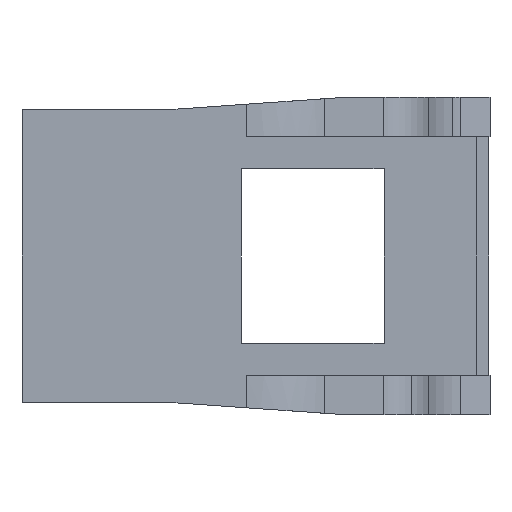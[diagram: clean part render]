
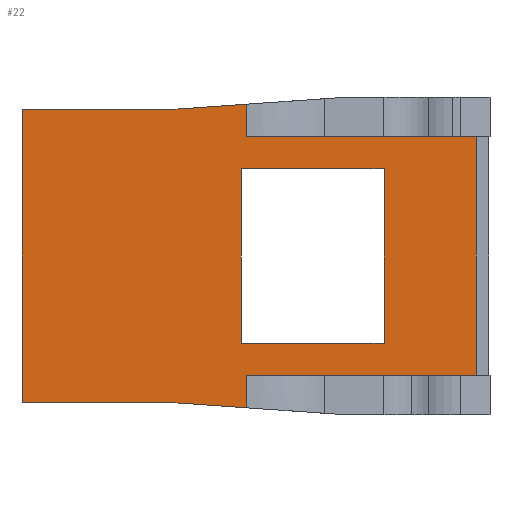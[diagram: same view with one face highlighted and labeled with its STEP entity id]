
A CAD part, left-side view. The second image highlights one B-rep face of the part: STEP entity #22.
In plain terms, the highlighted planar face has unit normal (-1, 0, 0).
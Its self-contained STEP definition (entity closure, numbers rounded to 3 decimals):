
#22 = ADVANCED_FACE ( 'NONE', ( #414, #521 ), #1425, .F. ) ;
#85 = ORIENTED_EDGE ( 'NONE', *, *, #951, .F. ) ;
#100 = ORIENTED_EDGE ( 'NONE', *, *, #895, .T. ) ;
#101 = ORIENTED_EDGE ( 'NONE', *, *, #1040, .T. ) ;
#102 = ORIENTED_EDGE ( 'NONE', *, *, #923, .F. ) ;
#103 = ORIENTED_EDGE ( 'NONE', *, *, #968, .F. ) ;
#130 = ORIENTED_EDGE ( 'NONE', *, *, #842, .T. ) ;
#157 = ORIENTED_EDGE ( 'NONE', *, *, #975, .F. ) ;
#162 = ORIENTED_EDGE ( 'NONE', *, *, #875, .T. ) ;
#165 = ORIENTED_EDGE ( 'NONE', *, *, #1021, .T. ) ;
#178 = ORIENTED_EDGE ( 'NONE', *, *, #988, .T. ) ;
#179 = ORIENTED_EDGE ( 'NONE', *, *, #905, .T. ) ;
#180 = ORIENTED_EDGE ( 'NONE', *, *, #883, .T. ) ;
#225 = LINE ( 'NONE', #1587, #268 ) ;
#229 = ORIENTED_EDGE ( 'NONE', *, *, #870, .F. ) ;
#234 = ORIENTED_EDGE ( 'NONE', *, *, #1000, .F. ) ;
#250 = VECTOR ( 'NONE', #1517, 1000. ) ;
#268 = VECTOR ( 'NONE', #1585, 1000. ) ;
#282 = VECTOR ( 'NONE', #1588, 1000. ) ;
#330 = LINE ( 'NONE', #1520, #347 ) ;
#336 = LINE ( 'NONE', #1449, #337 ) ;
#337 = VECTOR ( 'NONE', #1452, 1000. ) ;
#344 = EDGE_LOOP ( 'NONE', ( #178, #85, #157, #100, #179, #102, #162, #234, #103, #229 ) ) ;
#347 = VECTOR ( 'NONE', #1475, 1000. ) ;
#350 = LINE ( 'NONE', #1498, #396 ) ;
#356 = EDGE_LOOP ( 'NONE', ( #180, #101, #130, #165 ) ) ;
#376 = LINE ( 'NONE', #1227, #250 ) ;
#392 = VECTOR ( 'NONE', #816, 1000. ) ;
#396 = VECTOR ( 'NONE', #1487, 1000. ) ;
#406 = VECTOR ( 'NONE', #1092, 1000. ) ;
#414 = FACE_OUTER_BOUND ( 'NONE', #344, .T. ) ;
#419 = LINE ( 'NONE', #815, #392 ) ;
#500 = LINE ( 'NONE', #1302, #282 ) ;
#505 = VECTOR ( 'NONE', #1086, 1000. ) ;
#521 = FACE_BOUND ( 'NONE', #356, .T. ) ;
#538 = LINE ( 'NONE', #1197, #549 ) ;
#549 = VECTOR ( 'NONE', #1117, 1000. ) ;
#563 = VECTOR ( 'NONE', #1413, 1000. ) ;
#564 = LINE ( 'NONE', #1340, #563 ) ;
#572 = VECTOR ( 'NONE', #1427, 1000. ) ;
#575 = LINE ( 'NONE', #1273, #628 ) ;
#582 = LINE ( 'NONE', #1110, #505 ) ;
#589 = VECTOR ( 'NONE', #1199, 1000. ) ;
#598 = LINE ( 'NONE', #1134, #406 ) ;
#601 = LINE ( 'NONE', #1090, #589 ) ;
#628 = VECTOR ( 'NONE', #1261, 1000. ) ;
#643 = LINE ( 'NONE', #1428, #572 ) ;
#701 = CARTESIAN_POINT ( 'NONE',  ( 1.6, 10.2, 4.6 ) ) ;
#702 = CARTESIAN_POINT ( 'NONE',  ( 1.6, 7.632, 3.75 ) ) ;
#707 = CARTESIAN_POINT ( 'NONE',  ( 1.6, 14.7, 4.6 ) ) ;
#727 = CARTESIAN_POINT ( 'NONE',  ( 1.6, 3.3, -2.75 ) ) ;
#728 = CARTESIAN_POINT ( 'NONE',  ( 1.6, 7.8, -2.75 ) ) ;
#733 = CARTESIAN_POINT ( 'NONE',  ( 1.6, 3.3, 2.75 ) ) ;
#738 = CARTESIAN_POINT ( 'NONE',  ( 1.6, 0.4, -3.75 ) ) ;
#740 = CARTESIAN_POINT ( 'NONE',  ( 1.6, 7.632, -4.78 ) ) ;
#758 = CARTESIAN_POINT ( 'NONE',  ( 1.6, 7.8, 2.75 ) ) ;
#773 = CARTESIAN_POINT ( 'NONE',  ( 1.6, 10.2, -4.6 ) ) ;
#797 = CARTESIAN_POINT ( 'NONE',  ( 1.6, 7.632, -3.75 ) ) ;
#798 = CARTESIAN_POINT ( 'NONE',  ( 1.6, 14.7, -4.6 ) ) ;
#804 = CARTESIAN_POINT ( 'NONE',  ( 1.6, 7.632, 4.78 ) ) ;
#815 = CARTESIAN_POINT ( 'NONE',  ( 1.6, 0.4, -2.75 ) ) ;
#816 = DIRECTION ( 'NONE',  ( 0., 1., 0. ) ) ;
#818 = CARTESIAN_POINT ( 'NONE',  ( 1.6, 0.4, 3.75 ) ) ;
#842 = EDGE_CURVE ( 'NONE', #1551, #1355, #601, .T. ) ;
#870 = EDGE_CURVE ( 'NONE', #1200, #1293, #500, .T. ) ;
#875 = EDGE_CURVE ( 'NONE', #1603, #1297, #564, .T. ) ;
#883 = EDGE_CURVE ( 'NONE', #1478, #1539, #538, .T. ) ;
#885 = AXIS2_PLACEMENT_3D ( 'NONE', #1368, #1093, #1503 ) ;
#895 = EDGE_CURVE ( 'NONE', #1433, #1152, #582, .T. ) ;
#905 = EDGE_CURVE ( 'NONE', #1152, #1431, #575, .T. ) ;
#923 = EDGE_CURVE ( 'NONE', #1603, #1431, #643, .T. ) ;
#951 = EDGE_CURVE ( 'NONE', #1562, #1190, #598, .T. ) ;
#968 = EDGE_CURVE ( 'NONE', #1293, #1115, #336, .T. ) ;
#975 = EDGE_CURVE ( 'NONE', #1433, #1562, #330, .T. ) ;
#988 = EDGE_CURVE ( 'NONE', #1200, #1190, #376, .T. ) ;
#1000 = EDGE_CURVE ( 'NONE', #1115, #1297, #350, .T. ) ;
#1021 = EDGE_CURVE ( 'NONE', #1355, #1478, #225, .T. ) ;
#1040 = EDGE_CURVE ( 'NONE', #1539, #1551, #419, .T. ) ;
#1086 = DIRECTION ( 'NONE',  ( 0., 0., 1. ) ) ;
#1090 = CARTESIAN_POINT ( 'NONE',  ( 1.6, 7.8, 5. ) ) ;
#1092 = DIRECTION ( 'NONE',  ( 0., 1., 0. ) ) ;
#1093 = DIRECTION ( 'NONE',  ( 1., 0., 0. ) ) ;
#1110 = CARTESIAN_POINT ( 'NONE',  ( 1.6, 7.632, -5. ) ) ;
#1115 = VERTEX_POINT ( 'NONE', #804 ) ;
#1117 = DIRECTION ( 'NONE',  ( 0., 0., -1. ) ) ;
#1134 = CARTESIAN_POINT ( 'NONE',  ( 1.6, 14.7, -4.6 ) ) ;
#1152 = VERTEX_POINT ( 'NONE', #797 ) ;
#1190 = VERTEX_POINT ( 'NONE', #798 ) ;
#1197 = CARTESIAN_POINT ( 'NONE',  ( 1.6, 3.3, 5. ) ) ;
#1199 = DIRECTION ( 'NONE',  ( 0., 0., 1. ) ) ;
#1200 = VERTEX_POINT ( 'NONE', #707 ) ;
#1227 = CARTESIAN_POINT ( 'NONE',  ( 1.6, 14.7, 5. ) ) ;
#1261 = DIRECTION ( 'NONE',  ( 0., -1., 0. ) ) ;
#1273 = CARTESIAN_POINT ( 'NONE',  ( 1.6, 0.4, -3.75 ) ) ;
#1293 = VERTEX_POINT ( 'NONE', #701 ) ;
#1297 = VERTEX_POINT ( 'NONE', #702 ) ;
#1302 = CARTESIAN_POINT ( 'NONE',  ( 1.6, 14.7, 4.6 ) ) ;
#1340 = CARTESIAN_POINT ( 'NONE',  ( 1.6, 0.4, 3.75 ) ) ;
#1355 = VERTEX_POINT ( 'NONE', #758 ) ;
#1368 = CARTESIAN_POINT ( 'NONE',  ( 1.6, 0.4, 5. ) ) ;
#1413 = DIRECTION ( 'NONE',  ( 0., 1., 0. ) ) ;
#1425 = PLANE ( 'NONE',  #885 ) ;
#1427 = DIRECTION ( 'NONE',  ( 0., 0., -1. ) ) ;
#1428 = CARTESIAN_POINT ( 'NONE',  ( 1.6, 0.4, 5. ) ) ;
#1431 = VERTEX_POINT ( 'NONE', #738 ) ;
#1433 = VERTEX_POINT ( 'NONE', #740 ) ;
#1449 = CARTESIAN_POINT ( 'NONE',  ( 1.6, 10.2, 4.6 ) ) ;
#1452 = DIRECTION ( 'NONE',  ( 0., -0.998, 0.07 ) ) ;
#1475 = DIRECTION ( 'NONE',  ( 0., 0.998, 0.07 ) ) ;
#1478 = VERTEX_POINT ( 'NONE', #733 ) ;
#1487 = DIRECTION ( 'NONE',  ( 0., 0., -1. ) ) ;
#1498 = CARTESIAN_POINT ( 'NONE',  ( 1.6, 7.632, 5. ) ) ;
#1503 = DIRECTION ( 'NONE',  ( 0., 0., -1. ) ) ;
#1517 = DIRECTION ( 'NONE',  ( 0., 0., -1. ) ) ;
#1520 = CARTESIAN_POINT ( 'NONE',  ( 1.6, 10.2, -4.6 ) ) ;
#1539 = VERTEX_POINT ( 'NONE', #727 ) ;
#1551 = VERTEX_POINT ( 'NONE', #728 ) ;
#1562 = VERTEX_POINT ( 'NONE', #773 ) ;
#1585 = DIRECTION ( 'NONE',  ( 0., -1., 0. ) ) ;
#1587 = CARTESIAN_POINT ( 'NONE',  ( 1.6, 0.4, 2.75 ) ) ;
#1588 = DIRECTION ( 'NONE',  ( 0., -1., 0. ) ) ;
#1603 = VERTEX_POINT ( 'NONE', #818 ) ;
